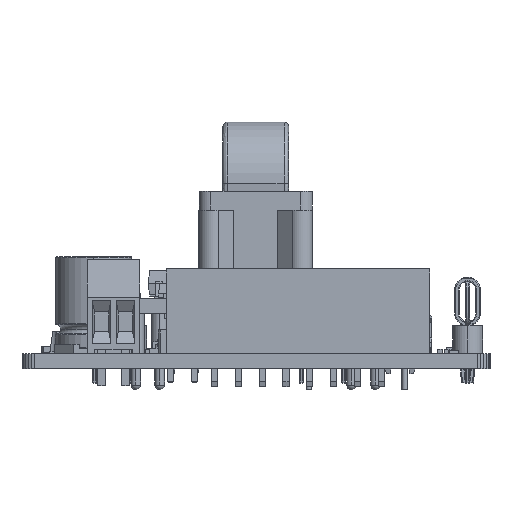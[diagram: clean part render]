
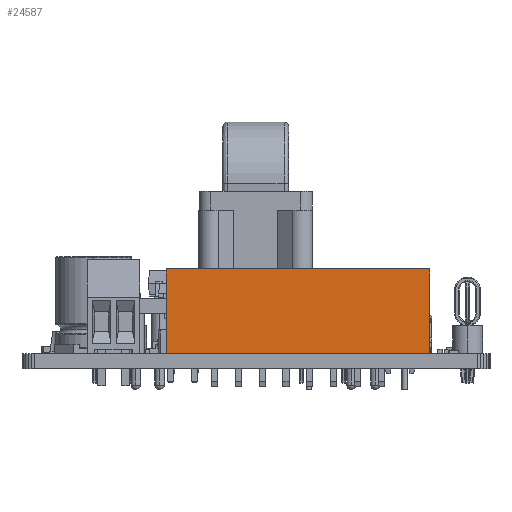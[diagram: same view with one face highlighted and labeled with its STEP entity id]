
A CAD part, left-side view. The second image highlights one B-rep face of the part: STEP entity #24587.
In plain terms, the highlighted planar face has unit normal (-1, 0, 0) as drawn and (0, 1, 0) by its records, which use the part's own axes.
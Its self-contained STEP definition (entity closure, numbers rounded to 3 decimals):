
#20799 = VERTEX_POINT('',#20800);
#20800 = CARTESIAN_POINT('',(-13.97,4.4,0.));
#20806 = EDGE_CURVE('',#20799,#20807,#20809,.T.);
#20807 = VERTEX_POINT('',#20808);
#20808 = CARTESIAN_POINT('',(13.97,4.4,0.));
#20809 = LINE('',#20810,#20811);
#20810 = CARTESIAN_POINT('',(0.,4.4,0.));
#20811 = VECTOR('',#20812,1.);
#20812 = DIRECTION('',(1.,0.,0.));
#24507 = VERTEX_POINT('',#24508);
#24508 = CARTESIAN_POINT('',(13.97,4.4,9.));
#24514 = EDGE_CURVE('',#24507,#24515,#24517,.T.);
#24515 = VERTEX_POINT('',#24516);
#24516 = CARTESIAN_POINT('',(-13.97,4.4,9.));
#24517 = LINE('',#24518,#24519);
#24518 = CARTESIAN_POINT('',(0.,4.4,9.));
#24519 = VECTOR('',#24520,1.);
#24520 = DIRECTION('',(-1.,0.,0.));
#24574 = EDGE_CURVE('',#24515,#20799,#24575,.T.);
#24575 = LINE('',#24576,#24577);
#24576 = CARTESIAN_POINT('',(-13.97,4.4,4.5));
#24577 = VECTOR('',#24578,1.);
#24578 = DIRECTION('',(0.,0.,-1.));
#24587 = ADVANCED_FACE('',(#24588),#24599,.F.);
#24588 = FACE_BOUND('',#24589,.T.);
#24589 = EDGE_LOOP('',(#24590,#24596,#24597,#24598));
#24590 = ORIENTED_EDGE('',*,*,#24591,.T.);
#24591 = EDGE_CURVE('',#24507,#20807,#24592,.T.);
#24592 = LINE('',#24593,#24594);
#24593 = CARTESIAN_POINT('',(13.97,4.4,4.5));
#24594 = VECTOR('',#24595,1.);
#24595 = DIRECTION('',(0.,0.,-1.));
#24596 = ORIENTED_EDGE('',*,*,#20806,.F.);
#24597 = ORIENTED_EDGE('',*,*,#24574,.F.);
#24598 = ORIENTED_EDGE('',*,*,#24514,.F.);
#24599 = PLANE('',#24600);
#24600 = AXIS2_PLACEMENT_3D('',#24601,#24602,#24603);
#24601 = CARTESIAN_POINT('',(0.,4.4,4.5));
#24602 = DIRECTION('',(0.,-1.,0.));
#24603 = DIRECTION('',(0.,0.,-1.));
